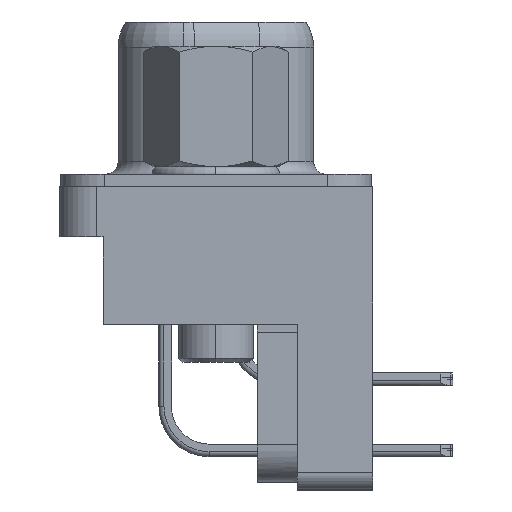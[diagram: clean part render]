
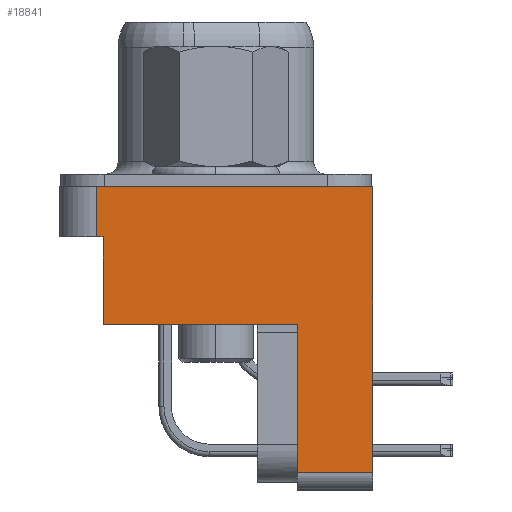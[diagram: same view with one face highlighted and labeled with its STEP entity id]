
A CAD part, left-side view. The second image highlights one B-rep face of the part: STEP entity #18841.
In plain terms, the highlighted planar face has unit normal (-1, 0, 0).
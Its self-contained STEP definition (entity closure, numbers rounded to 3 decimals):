
#793 = EDGE_CURVE ( 'NONE', #22979, #16906, #3227, .T. ) ;
#2517 = DIRECTION ( 'NONE',  ( 0., 0., 1. ) ) ;
#3227 = LINE ( 'NONE', #25256, #25720 ) ;
#3741 = CARTESIAN_POINT ( 'NONE',  ( -26.52, 4.75, -5.5 ) ) ;
#4182 = DIRECTION ( 'NONE',  ( 0., -1., 0. ) ) ;
#4769 = VECTOR ( 'NONE', #13233, 1000. ) ;
#6175 = CARTESIAN_POINT ( 'NONE',  ( -26.52, 6.25, 0. ) ) ;
#6547 = EDGE_CURVE ( 'NONE', #21468, #14544, #21932, .T. ) ;
#8101 = VECTOR ( 'NONE', #4182, 1000. ) ;
#8317 = CARTESIAN_POINT ( 'NONE',  ( -26.52, -6.25, 0. ) ) ;
#8408 = LINE ( 'NONE', #40002, #35233 ) ;
#8610 = EDGE_CURVE ( 'NONE', #19509, #34099, #35466, .T. ) ;
#8715 = ORIENTED_EDGE ( 'NONE', *, *, #20775, .T. ) ;
#8828 = AXIS2_PLACEMENT_3D ( 'NONE', #33009, #12049, #25705 ) ;
#9540 = ORIENTED_EDGE ( 'NONE', *, *, #11748, .F. ) ;
#9816 = DIRECTION ( 'NONE',  ( 0., -1., 0. ) ) ;
#9860 = DIRECTION ( 'NONE',  ( 0., -1., 0. ) ) ;
#10042 = CARTESIAN_POINT ( 'NONE',  ( -26.52, -6.25, -11.4 ) ) ;
#11562 = VECTOR ( 'NONE', #23566, 1000. ) ;
#11748 = EDGE_CURVE ( 'NONE', #21468, #13621, #28023, .T. ) ;
#12049 = DIRECTION ( 'NONE',  ( -1., 0., 0. ) ) ;
#12362 = VECTOR ( 'NONE', #9816, 1000. ) ;
#13196 = VECTOR ( 'NONE', #44949, 1000. ) ;
#13233 = DIRECTION ( 'NONE',  ( 0., 0., 1. ) ) ;
#13621 = VERTEX_POINT ( 'NONE', #8317 ) ;
#14339 = CARTESIAN_POINT ( 'NONE',  ( -26.52, 4.75, 0. ) ) ;
#14522 = CARTESIAN_POINT ( 'NONE',  ( -26.52, -3.25, -11.4 ) ) ;
#14544 = VERTEX_POINT ( 'NONE', #41368 ) ;
#14743 = ORIENTED_EDGE ( 'NONE', *, *, #793, .F. ) ;
#15405 = PLANE ( 'NONE',  #8828 ) ;
#16213 = CARTESIAN_POINT ( 'NONE',  ( -26.52, 4.5, -2. ) ) ;
#16786 = CARTESIAN_POINT ( 'NONE',  ( -26.52, -6.25, -5.5 ) ) ;
#16906 = VERTEX_POINT ( 'NONE', #16213 ) ;
#17053 = ORIENTED_EDGE ( 'NONE', *, *, #32894, .T. ) ;
#18560 = ORIENTED_EDGE ( 'NONE', *, *, #8610, .F. ) ;
#18841 = ADVANCED_FACE ( 'NONE', ( #19619 ), #15405, .T. ) ;
#19509 = VERTEX_POINT ( 'NONE', #14522 ) ;
#19619 = FACE_OUTER_BOUND ( 'NONE', #24796, .T. ) ;
#20073 = CARTESIAN_POINT ( 'NONE',  ( -26.52, 6.25, -5.5 ) ) ;
#20775 = EDGE_CURVE ( 'NONE', #22979, #34099, #32622, .T. ) ;
#21468 = VERTEX_POINT ( 'NONE', #14339 ) ;
#21890 = CARTESIAN_POINT ( 'NONE',  ( -26.52, -3.25, -5.5 ) ) ;
#21932 = LINE ( 'NONE', #3741, #13196 ) ;
#22979 = VERTEX_POINT ( 'NONE', #41261 ) ;
#22996 = DIRECTION ( 'NONE',  ( 0., -1., 0. ) ) ;
#23440 = LINE ( 'NONE', #35761, #8101 ) ;
#23566 = DIRECTION ( 'NONE',  ( 0., 0., 1. ) ) ;
#24796 = EDGE_LOOP ( 'NONE', ( #8715, #18560, #17053, #43169, #9540, #29543, #39103, #14743 ) ) ;
#25256 = CARTESIAN_POINT ( 'NONE',  ( -26.52, 4.5, -5.5 ) ) ;
#25705 = DIRECTION ( 'NONE',  ( 0., 0., 1. ) ) ;
#25720 = VECTOR ( 'NONE', #2517, 1000. ) ;
#27289 = VERTEX_POINT ( 'NONE', #10042 ) ;
#28023 = LINE ( 'NONE', #6175, #36270 ) ;
#29543 = ORIENTED_EDGE ( 'NONE', *, *, #6547, .T. ) ;
#31255 = LINE ( 'NONE', #16786, #11562 ) ;
#32622 = LINE ( 'NONE', #20073, #12362 ) ;
#32894 = EDGE_CURVE ( 'NONE', #19509, #27289, #23440, .T. ) ;
#33009 = CARTESIAN_POINT ( 'NONE',  ( -26.52, 6.25, -5.5 ) ) ;
#34099 = VERTEX_POINT ( 'NONE', #21890 ) ;
#35233 = VECTOR ( 'NONE', #22996, 1000. ) ;
#35466 = LINE ( 'NONE', #41380, #4769 ) ;
#35761 = CARTESIAN_POINT ( 'NONE',  ( -26.52, -6.25, -11.4 ) ) ;
#36270 = VECTOR ( 'NONE', #9860, 1000. ) ;
#37049 = EDGE_CURVE ( 'NONE', #27289, #13621, #31255, .T. ) ;
#39103 = ORIENTED_EDGE ( 'NONE', *, *, #40067, .T. ) ;
#40002 = CARTESIAN_POINT ( 'NONE',  ( -26.52, 7.5, -2. ) ) ;
#40067 = EDGE_CURVE ( 'NONE', #14544, #16906, #8408, .T. ) ;
#41261 = CARTESIAN_POINT ( 'NONE',  ( -26.52, 4.5, -5.5 ) ) ;
#41368 = CARTESIAN_POINT ( 'NONE',  ( -26.52, 4.75, -2. ) ) ;
#41380 = CARTESIAN_POINT ( 'NONE',  ( -26.52, -3.25, -5.5 ) ) ;
#43169 = ORIENTED_EDGE ( 'NONE', *, *, #37049, .T. ) ;
#44949 = DIRECTION ( 'NONE',  ( 0., 0., -1. ) ) ;
